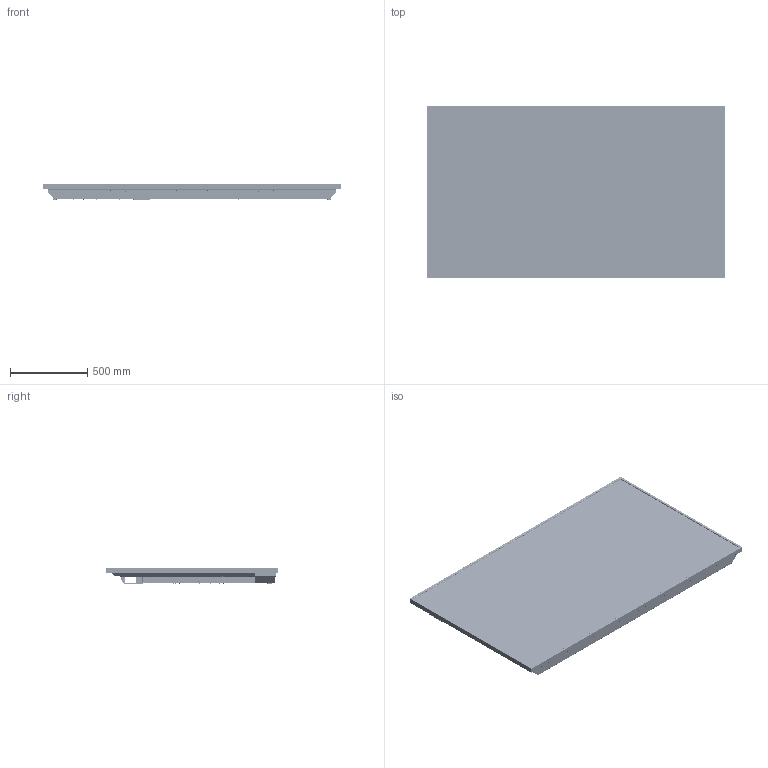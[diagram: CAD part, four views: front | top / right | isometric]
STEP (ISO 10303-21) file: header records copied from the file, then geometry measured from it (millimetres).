
FILE_DESCRIPTION (( 'STEP AP203' ), '1' );
FILE_NAME ('Attu URP85-ERO-T Panel 3D.STEP', '2022-01-31T02:56:11', ( '' ), ( '' ), 'SwSTEP 2.0', 'SolidWorks 2021', '' );
FILE_SCHEMA (( 'CONFIG_CONTROL_DESIGN' ));
Length unit declared in the file: millimetre
Products named in the file (152): 591-0367_Printed Glass; 572-5497; ASSY_COV_PCB_X_R_M_S850DJ1-D02_ASM; MYLAR_SHARP_ASK_S850DJ1-D02_3; TV_W002_SOLID; MYLAR_WIRE_S850DJ1-D02_2; 572-4464; MYLAR_SHARP_ASK_S850DJ1-D02_18; THM_PAD_3_COV_CNV_S750DJ3-D02; WIRE_LBAR_S850DJ1-D02_4; FFC_60PIN_S850DJ1-D02_ASM; CTRL_THERMAL_8207_S850DJ1-D02; STAND_P-COV_M3H12-3; B18.6.7M - M3 x 0.5 x 6 Type I Cross Recessed FHMS --6N BLK_PreviewCfg; PLP2-125 (Lens); BEZEL_D_ID_S850DJ1-D02; SPACER_XB_COVER_SD850DJ1-D02; MYLAR_COV_X_R_S850DJ1-D02_2; THM_PAD_4_COV_CNV_S750DJ3-D02; STAND_HDL_BRK_M6H7; TV_W002_ASM; MYLAR_COV_X_R_S850DJ1-D02; COV_PCB_X_L_M_S850DJ1-D02; WIRE_LBAR_S850DJ1-D02; 572-5495; THM_PAD_2_COV_CNV_S750DJ3-D02; MYLAR_SHARP_ASK_S850DJ1-D02_14; 572-5466; 572-5472; ASSY_BEZEL_D_ID_S850DJ1-D02_ASM; MYLAR_P-CVR_S850DJ1-D02; SCREW_M25L2_S850DJ1-D02; CTB-B-B-03; SCREW_M25L18_S850DJ1-D02; BEZEL_L_ID_S850DJ1-D02; MET_BRK_HDL_S750DJ3-D02; WIRE_LBAR_S850DJ1-D02_ASM; 572-5474; 572-5496; ASSY_COV_CTRL_V850DJ1-D02_ASM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
Assembly tree (640 placements, depth 6):
  Attu URP85-ERO-T Panel 3D
    module_s850dj1-d02_190121-simplified
      BLU_S850DJ1-D02_ASM
        ASSY_REAR_S850DJ1-D02_ASM
          REAR_S850DJ1-D02
            REAR_S850DJ1-D02
            REAR_S850DJ1-D02_3
            REAR_S850DJ1-D02_2
          STAND_REAR_M3H6
          TAPE_TOOLING_HOL_S850DJ1-D02
            TAPE_TOOLING_HOL_S850DJ1-D02_3
            TAPE_TOOLING_HOL_S850DJ1-D02_4
            TAPE_TOOLING_HOL_S850DJ1-D02
            TAPE_TOOLING_HOL_S850DJ1-D02_2
          STAND_OFF_H9_S85  x2
          STAND_OFF_10_1_P_S850DJ1-D02
          STAND_OFF__S850DJ1_D02  x8
          STAND_OFF_13_S850DJ1_D02  x12
          STAND_OFF_15_1_P_S850DJ1-D02  x3
          MET_BRK_HDL_S750DJ3-D02_ASM  x4
            MET_BRK_HDL_S750DJ3-D02
            STAND_HDL_BRK_M6H7
          WM_BKT_S750DJ3-D02  x4
          SCREW_M25L2_S850DJ1-D02  x24
          SPONGE_PCB_X_S850DJ-D02  x12
          MYLAR_SHARP_ASK_S850DJ1-D02
            MYLAR_SHARP_ASK_S850DJ1-D02_18
            MYLAR_SHARP_ASK_S850DJ1-D02
            MYLAR_SHARP_ASK_S850DJ1-D02_6
            MYLAR_SHARP_ASK_S850DJ1-D02_7
            MYLAR_SHARP_ASK_S850DJ1-D02_15
            MYLAR_SHARP_ASK_S850DJ1-D02_4
            MYLAR_SHARP_ASK_S850DJ1-D02_2
            MYLAR_SHARP_ASK_S850DJ1-D02_16
            MYLAR_SHARP_ASK_S850DJ1-D02_11
            MYLAR_SHARP_ASK_S850DJ1-D02_12
            MYLAR_SHARP_ASK_S850DJ1-D02_8
            MYLAR_SHARP_ASK_S850DJ1-D02_3
            MYLAR_SHARP_ASK_S850DJ1-D02_9
            MYLAR_SHARP_ASK_S850DJ1-D02_10
            MYLAR_SHARP_ASK_S850DJ1-D02_19
            MYLAR_SHARP_ASK_S850DJ1-D02_5
            MYLAR_SHARP_ASK_S850DJ1-D02_13
            MYLAR_SHARP_ASK_S850DJ1-D02_14
            MYLAR_SHARP_ASK_S850DJ1-D02_17
        HS_CNV_S850DJ1-D02
        ASSY_PCB_CNV_S750DJ3-D02_ASM
          PCB_CNV_S750DJ3-D02
          TV_W051_ASM  x4
            TV_W051_SOLID
          TV_W002_ASM
            TV_W002_SOLID
          TV_W015_ASM
            TV_W015_SOLID
        WIRE_LBAR_S850DJ1-D02_ASM
          CI1416SL000-NH_S850DJ1-D02  x4
          WIRE_LBAR_S850DJ1-D02
            WIRE_LBAR_S850DJ1-D02_5
            WIRE_LBAR_S850DJ1-D02
            WIRE_LBAR_S850DJ1-D02_2
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Bounding box: 1935.6 x 1116.6 x 103.58 mm (x, y, z)
Volume: 10080045.7 mm3; surface area: 14014120.7 mm2
Topology: 613 solids, 745 shells, 37776 faces, 97572 edges, 61906 vertices
Faces by surface type: plane 17926, cylinder 13753, bspline 3375, cone 2468, torus 190, sphere 64
Entity records: 820680 total; most frequent: CARTESIAN_POINT 287328, ORIENTED_EDGE 105891, DIRECTION 99641, EDGE_CURVE 55357, VERTEX_POINT 36939, AXIS2_PLACEMENT_3D 35010, VECTOR 29621, LINE 29621
